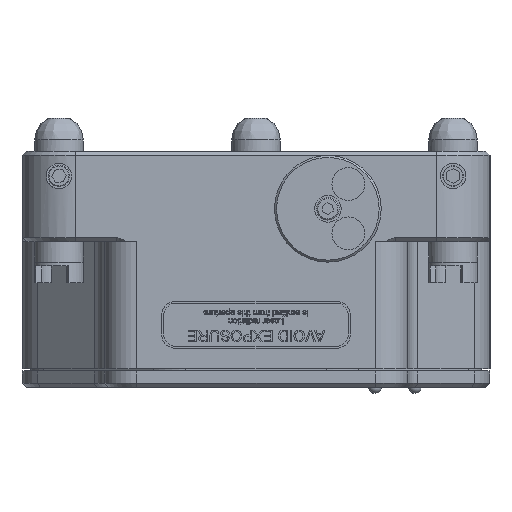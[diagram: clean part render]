
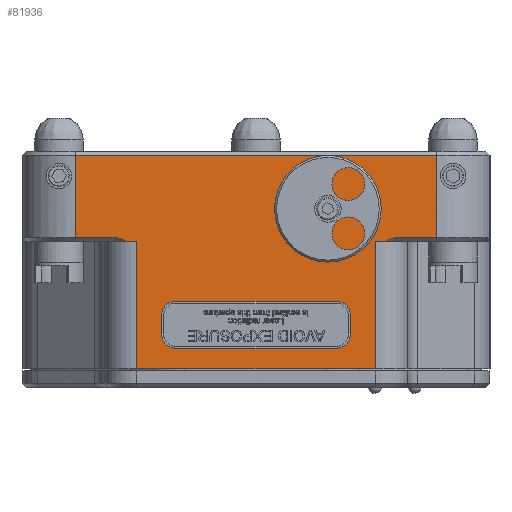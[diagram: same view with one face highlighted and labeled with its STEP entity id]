
A CAD part, left-side view. The second image highlights one B-rep face of the part: STEP entity #81936.
In plain terms, the highlighted planar face has unit normal (-1, 0, 0).
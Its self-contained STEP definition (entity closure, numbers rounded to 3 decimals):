
#2173=CIRCLE('',#177051,3.5);
#2174=CIRCLE('',#177054,3.5);
#2175=CIRCLE('',#177057,3.5);
#2176=CIRCLE('',#177060,3.5);
#2215=CIRCLE('',#177164,1.653);
#3300=LINE('',#216153,#13427);
#3444=LINE('',#216805,#13571);
#3448=LINE('',#216815,#13575);
#3451=LINE('',#216823,#13578);
#3454=LINE('',#216831,#13581);
#3457=LINE('',#216839,#13584);
#3459=LINE('',#216850,#13586);
#3463=LINE('',#216864,#13590);
#3469=LINE('',#216889,#13596);
#3470=LINE('',#216891,#13597);
#3473=LINE('',#216901,#13600);
#3512=LINE('',#217014,#13639);
#3518=LINE('',#217031,#13645);
#3532=LINE('',#217058,#13659);
#13427=VECTOR('',#183533,1.);
#13571=VECTOR('',#184045,1.);
#13575=VECTOR('',#184055,1.);
#13578=VECTOR('',#184064,1.);
#13581=VECTOR('',#184073,1.);
#13584=VECTOR('',#184082,1.);
#13586=VECTOR('',#184090,1.);
#13590=VECTOR('',#184102,1.);
#13596=VECTOR('',#184120,1.);
#13597=VECTOR('',#184123,1.);
#13600=VECTOR('',#184132,1.);
#13639=VECTOR('',#184271,1.);
#13645=VECTOR('',#184291,1.);
#13659=VECTOR('',#184331,1.);
#25421=PLANE('',#177165);
#29519=FACE_BOUND('',#95173,.T.);
#29520=FACE_BOUND('',#95174,.T.);
#29521=FACE_BOUND('',#95175,.T.);
#81936=ADVANCED_FACE('',(#29519,#29520,#29521),#25421,.T.);
#95173=EDGE_LOOP('',(#104474));
#95174=EDGE_LOOP('',(#104475,#104476,#104477,#104478,#104479,#104480,#104481,
#104482,#104483,#104484,#104485,#104486));
#95175=EDGE_LOOP('',(#104487,#104488,#104489,#104490,#104491,#104492,#104493,
#104494));
#104474=ORIENTED_EDGE('',*,*,#151716,.F.);
#104475=ORIENTED_EDGE('',*,*,#151618,.T.);
#104476=ORIENTED_EDGE('',*,*,#151676,.T.);
#104477=ORIENTED_EDGE('',*,*,#151613,.T.);
#104478=ORIENTED_EDGE('',*,*,#151612,.F.);
#104479=ORIENTED_EDGE('',*,*,#151611,.T.);
#104480=ORIENTED_EDGE('',*,*,#151601,.F.);
#104481=ORIENTED_EDGE('',*,*,#151699,.T.);
#104482=ORIENTED_EDGE('',*,*,#151313,.T.);
#104483=ORIENTED_EDGE('',*,*,#151685,.T.);
#104484=ORIENTED_EDGE('',*,*,#151594,.T.);
#104485=ORIENTED_EDGE('',*,*,#151592,.F.);
#104486=ORIENTED_EDGE('',*,*,#151590,.T.);
#104487=ORIENTED_EDGE('',*,*,#151588,.T.);
#104488=ORIENTED_EDGE('',*,*,#151586,.T.);
#104489=ORIENTED_EDGE('',*,*,#151584,.T.);
#104490=ORIENTED_EDGE('',*,*,#151582,.F.);
#104491=ORIENTED_EDGE('',*,*,#151580,.T.);
#104492=ORIENTED_EDGE('',*,*,#151578,.F.);
#104493=ORIENTED_EDGE('',*,*,#151576,.T.);
#104494=ORIENTED_EDGE('',*,*,#151573,.T.);
#138806=VERTEX_POINT('',#216154);
#138807=VERTEX_POINT('',#216155);
#138945=VERTEX_POINT('',#216499);
#138950=VERTEX_POINT('',#216510);
#139018=VERTEX_POINT('',#216806);
#139019=VERTEX_POINT('',#216807);
#139020=VERTEX_POINT('',#216812);
#139021=VERTEX_POINT('',#216816);
#139022=VERTEX_POINT('',#216820);
#139023=VERTEX_POINT('',#216824);
#139024=VERTEX_POINT('',#216828);
#139025=VERTEX_POINT('',#216832);
#139027=VERTEX_POINT('',#216840);
#139028=VERTEX_POINT('',#216847);
#139029=VERTEX_POINT('',#216851);
#139035=VERTEX_POINT('',#216865);
#139036=VERTEX_POINT('',#216866);
#139043=VERTEX_POINT('',#216883);
#139044=VERTEX_POINT('',#216892);
#139047=VERTEX_POINT('',#216900);
#139084=VERTEX_POINT('',#217093);
#151313=EDGE_CURVE('',#138806,#138807,#3300,.T.);
#151573=EDGE_CURVE('',#139018,#139019,#3444,.T.);
#151576=EDGE_CURVE('',#139020,#139018,#2173,.T.);
#151578=EDGE_CURVE('',#139020,#139021,#3448,.T.);
#151580=EDGE_CURVE('',#139022,#139021,#2174,.T.);
#151582=EDGE_CURVE('',#139022,#139023,#3451,.T.);
#151584=EDGE_CURVE('',#139024,#139023,#2175,.T.);
#151586=EDGE_CURVE('',#139025,#139024,#3454,.T.);
#151588=EDGE_CURVE('',#139019,#139025,#2176,.T.);
#151590=EDGE_CURVE('',#139027,#138950,#3457,.T.);
#151592=EDGE_CURVE('',#139027,#139028,#169340,.T.);
#151594=EDGE_CURVE('',#139029,#139028,#3459,.T.);
#151601=EDGE_CURVE('',#139035,#139036,#3463,.T.);
#151611=EDGE_CURVE('',#139043,#139036,#169341,.T.);
#151612=EDGE_CURVE('',#139043,#138945,#3469,.T.);
#151613=EDGE_CURVE('',#139044,#138945,#3470,.T.);
#151618=EDGE_CURVE('',#138950,#139047,#3473,.T.);
#151676=EDGE_CURVE('',#139047,#139044,#3512,.T.);
#151685=EDGE_CURVE('',#138807,#139029,#3518,.T.);
#151699=EDGE_CURVE('',#139035,#138806,#3532,.T.);
#151716=EDGE_CURVE('',#139084,#139084,#2215,.T.);
#169340=B_SPLINE_CURVE_WITH_KNOTS('',3,(#216843,#216844,#216845,#216846),
 .UNSPECIFIED.,.F.,.F.,(4,4),(0.,1.),.UNSPECIFIED.);
#169341=B_SPLINE_CURVE_WITH_KNOTS('',3,(#216884,#216885,#216886,#216887),
 .UNSPECIFIED.,.F.,.F.,(4,4),(0.,1.),.UNSPECIFIED.);
#177051=AXIS2_PLACEMENT_3D('',#216811,#184050,#184051);
#177054=AXIS2_PLACEMENT_3D('',#216819,#184059,#184060);
#177057=AXIS2_PLACEMENT_3D('',#216827,#184068,#184069);
#177060=AXIS2_PLACEMENT_3D('',#216835,#184077,#184078);
#177164=AXIS2_PLACEMENT_3D('',#217092,#184372,#184373);
#177165=AXIS2_PLACEMENT_3D('',#217094,#184374,#184375);
#183533=DIRECTION('',(0.,-1.,0.));
#184045=DIRECTION('',(0.,-1.,0.));
#184050=DIRECTION('',(1.,0.,0.));
#184051=DIRECTION('',(0.,0.,-1.));
#184055=DIRECTION('',(0.,0.,-1.));
#184059=DIRECTION('',(1.,0.,0.));
#184060=DIRECTION('',(0.,0.,-1.));
#184064=DIRECTION('',(0.,-1.,0.));
#184068=DIRECTION('',(1.,0.,0.));
#184069=DIRECTION('',(0.,0.,-1.));
#184073=DIRECTION('',(0.,0.,-1.));
#184077=DIRECTION('',(1.,0.,0.));
#184078=DIRECTION('',(0.,0.,-1.));
#184082=DIRECTION('',(0.,-1.,0.));
#184090=DIRECTION('',(0.,-1.,0.));
#184102=DIRECTION('',(0.,1.,0.));
#184120=DIRECTION('',(0.,1.,0.));
#184123=DIRECTION('',(0.,0.,-1.));
#184132=DIRECTION('',(0.,0.,1.));
#184271=DIRECTION('',(0.,1.,0.));
#184291=DIRECTION('',(0.,0.,1.));
#184331=DIRECTION('',(0.,0.,-1.));
#184372=DIRECTION('',(-1.,0.,0.));
#184373=DIRECTION('',(0.,0.,-1.));
#184374=DIRECTION('',(-1.,0.,0.));
#184375=DIRECTION('',(0.,0.,1.));
#216153=CARTESIAN_POINT('',(75.393,46.135,58.85));
#216154=CARTESIAN_POINT('',(75.393,75.135,58.85));
#216155=CARTESIAN_POINT('',(75.393,17.135,58.85));
#216499=CARTESIAN_POINT('',(75.393,90.135,90.85));
#216510=CARTESIAN_POINT('',(75.393,2.135,90.85));
#216805=CARTESIAN_POINT('',(75.393,65.635,75.35));
#216806=CARTESIAN_POINT('',(75.393,65.635,75.35));
#216807=CARTESIAN_POINT('',(75.393,26.635,75.35));
#216811=CARTESIAN_POINT('',(75.393,65.635,71.85));
#216812=CARTESIAN_POINT('',(75.393,69.135,71.85));
#216815=CARTESIAN_POINT('',(75.393,69.135,71.85));
#216816=CARTESIAN_POINT('',(75.393,69.135,67.35));
#216819=CARTESIAN_POINT('',(75.393,65.635,67.35));
#216820=CARTESIAN_POINT('',(75.393,65.635,63.85));
#216823=CARTESIAN_POINT('',(75.393,65.635,63.85));
#216824=CARTESIAN_POINT('',(75.393,26.635,63.85));
#216827=CARTESIAN_POINT('',(75.393,26.635,67.35));
#216828=CARTESIAN_POINT('',(75.393,23.135,67.35));
#216831=CARTESIAN_POINT('',(75.393,23.135,71.85));
#216832=CARTESIAN_POINT('',(75.393,23.135,71.85));
#216835=CARTESIAN_POINT('',(75.393,26.635,71.85));
#216839=CARTESIAN_POINT('',(75.393,-12.965,90.85));
#216840=CARTESIAN_POINT('',(75.393,12.135,90.85));
#216843=CARTESIAN_POINT('',(75.393,12.135,90.85));
#216844=CARTESIAN_POINT('',(75.393,12.989,90.85));
#216845=CARTESIAN_POINT('',(75.393,13.735,90.35));
#216846=CARTESIAN_POINT('',(75.393,14.415,89.85));
#216847=CARTESIAN_POINT('',(75.393,14.415,89.85));
#216850=CARTESIAN_POINT('',(75.393,9.135,89.85));
#216851=CARTESIAN_POINT('',(75.393,17.135,89.85));
#216864=CARTESIAN_POINT('',(75.393,83.135,89.85));
#216865=CARTESIAN_POINT('',(75.393,75.135,89.85));
#216866=CARTESIAN_POINT('',(75.393,77.854,89.85));
#216883=CARTESIAN_POINT('',(75.393,80.135,90.85));
#216884=CARTESIAN_POINT('',(75.393,80.135,90.85));
#216885=CARTESIAN_POINT('',(75.393,79.286,90.85));
#216886=CARTESIAN_POINT('',(75.393,78.533,90.349));
#216887=CARTESIAN_POINT('',(75.393,77.854,89.85));
#216889=CARTESIAN_POINT('',(75.393,80.135,90.85));
#216891=CARTESIAN_POINT('',(75.393,90.135,58.85));
#216892=CARTESIAN_POINT('',(75.393,90.135,110.85));
#216900=CARTESIAN_POINT('',(75.393,2.135,110.85));
#216901=CARTESIAN_POINT('',(75.393,2.135,58.85));
#217014=CARTESIAN_POINT('',(75.393,46.135,110.85));
#217031=CARTESIAN_POINT('',(75.393,17.135,89.85));
#217058=CARTESIAN_POINT('',(75.393,75.135,58.85));
#217092=CARTESIAN_POINT('',(75.393,28.635,97.85));
#217093=CARTESIAN_POINT('',(75.393,28.635,96.197));
#217094=CARTESIAN_POINT('',(75.393,46.135,58.85));
